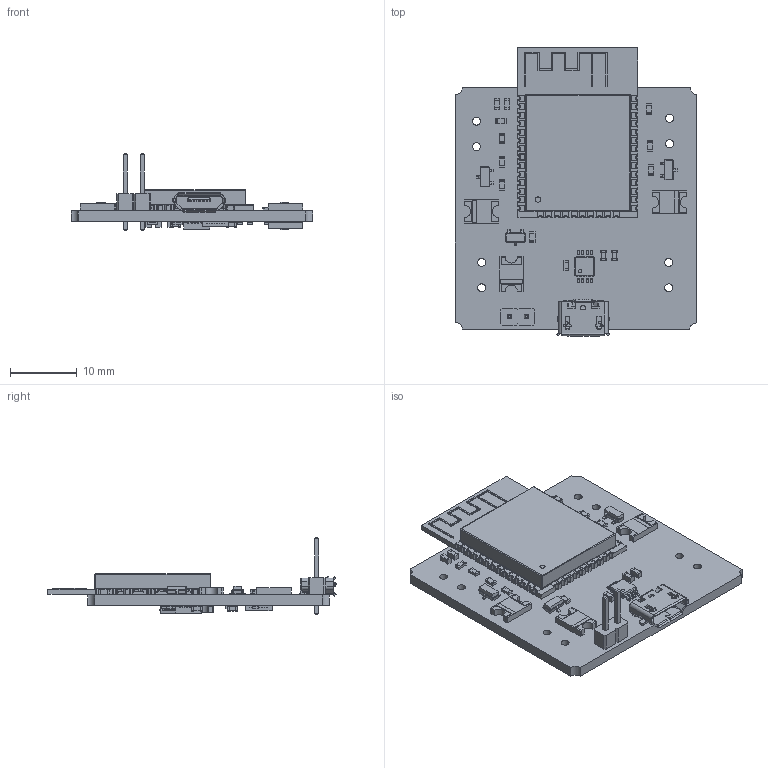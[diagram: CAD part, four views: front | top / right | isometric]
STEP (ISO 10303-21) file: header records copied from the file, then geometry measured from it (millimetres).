
FILE_DESCRIPTION(('KiCad electronic assembly'),'2;1');
FILE_NAME('Drone_PCB_V2.step','2020-08-31T20:39:31',('An Author'),( 'A Company'),'Open CASCADE STEP processor 6.9', 'KiCad to STEP converter','Unknown');
FILE_SCHEMA(('AUTOMOTIVE_DESIGN { 1 0 10303 214 1 1 1 1 }'));
Length unit declared in the file: millimetre
Products named in the file (22): Open CASCADE STEP translator 6.9 1; D_2114_3652Metric; SOLID; USB_Micro-B_Molex_47346-0001; R_0603_1608Metric; PinHeader_1x02_P2.54mm_Vertical; SOT-23; C_0603_1608Metric; QFN-24-1EP_4x4mm_P0.5mm_EP2.7x2.6mm; MSOP-8_3x3mm_P0.65mm; QFN-24-1EP_4x4mm_P0.5mm_EP2.6x2.6mm; ESP32-WROOM-32; COMPOUND
Assembly tree (50 placements, depth 3):
  Open CASCADE STEP translator 6.9 1
    D_2114_3652Metric  x4
      SOLID
    USB_Micro-B_Molex_47346-0001
      SOLID
    R_0603_1608Metric  x15
      SOLID
    PinHeader_1x02_P2.54mm_Vertical
      SOLID
    SOT-23  x4
      SOLID
    C_0603_1608Metric  x10
      SOLID
    QFN-24-1EP_4x4mm_P0.5mm_EP2.7x2.6mm
      SOLID
    MSOP-8_3x3mm_P0.65mm
      SOLID
    QFN-24-1EP_4x4mm_P0.5mm_EP2.6x2.6mm
      SOLID
    ESP32-WROOM-32
      SOLID
    COMPOUND
Bounding box: 36.2 x 43.21 x 11.54 mm (x, y, z)
Volume: 3282.6 mm3; surface area: 4949.2 mm2
Topology: 40 solids, 41 shells, 2909 faces, 7797 edges, 4982 vertices
Faces by surface type: plane 2133, cylinder 628, bspline 140, sphere 8
Full cylindrical faces by diameter (mm): 0.4 x1, 0.5 x2, 0.8 x2, 1 x2, 1.199 x8
Entity records: 146950 total; most frequent: CARTESIAN_POINT 26431, DIRECTION 19964, LINE 13444, VECTOR 13444, ORIENTED_EDGE 10650, PCURVE 10650, DEFINITIONAL_REPRESENTATION 10650, EDGE_CURVE 5325
